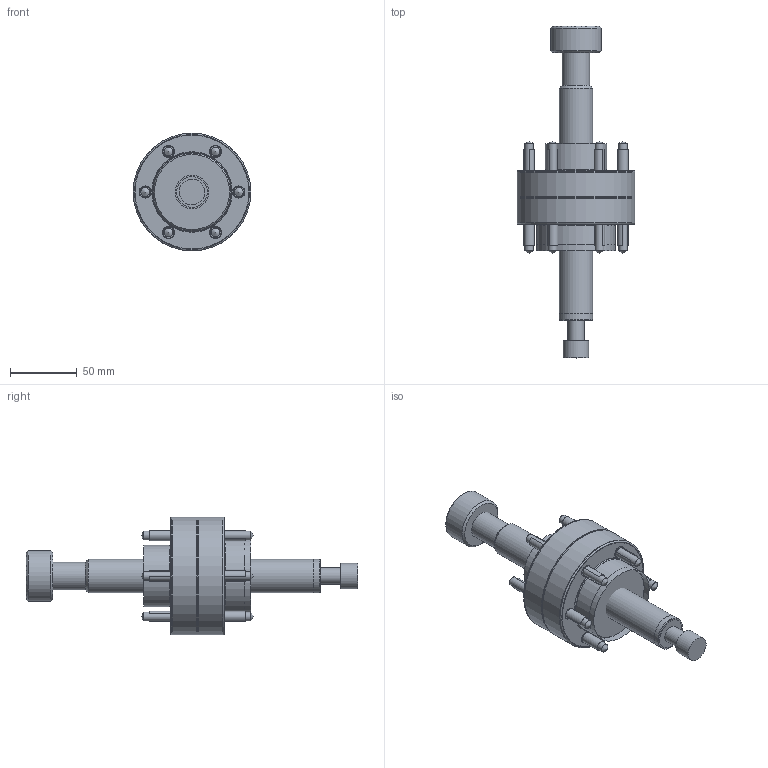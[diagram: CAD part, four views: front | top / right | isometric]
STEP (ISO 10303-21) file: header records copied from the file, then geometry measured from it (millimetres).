
FILE_DESCRIPTION (( 'STEP AP214' ), '1' );
FILE_NAME ('AS-25L SEMPLIFICATO.STEP', '2026-07-08T14:04:22', ( '' ), ( '' ), 'SwSTEP 2.0', 'SolidWorks 2025', '' );
FILE_SCHEMA (( 'AUTOMOTIVE_DESIGN' ));
Length unit declared in the file: millimetre
Products named in the file (9): AS-25 TESTA STELO_SEMPLIFICATO; ISO 4762 M12 x 30 - 30N_ISO 4762 M12 x 30 - 30N; AS-25 SEDE FLANGIA SEMPLIFICATO; AS-25L SEMPLIFICATO; AS-25 CORPO_SEMPLIFICATO; AS-25 SEDE STELO; AS-25 STELO_SEMPLIFICATO_AS-25 STELO L200; AS-25 FLANGIA_SEMPLIFICATO; AS-25 SEDE CORPO SEMPLIFICATO
Assembly tree (8 placements, depth 2):
  AS-25L SEMPLIFICATO
    AS-25 CORPO_SEMPLIFICATO
    AS-25 FLANGIA_SEMPLIFICATO
    AS-25 STELO_SEMPLIFICATO_AS-25 STELO L200
    AS-25 TESTA STELO_SEMPLIFICATO
    ISO 4762 M12 x 30 - 30N_ISO 4762 M12 x 30 - 30N
    AS-25 SEDE CORPO SEMPLIFICATO
    AS-25 SEDE FLANGIA SEMPLIFICATO
    AS-25 SEDE STELO
Bounding box: 88 x 248 x 88 mm (x, y, z)
Volume: 398354.5 mm3; surface area: 110032 mm2
Topology: 6 solids, 32 shells, 201 faces, 463 edges, 310 vertices
Faces by surface type: cylinder 75, plane 61, cone 56, torus 9
Full cylindrical faces by diameter (mm): 6.5 x12, 8.4 x6, 8.5 x6, 10.2 x1, 12 x1, 12.5 x2, 13.1 x6, 13.2 x6, 18 x1, 18.5 x1, 19 x1, 20.5 x2, 25 x1, 25.1 x1, 38 x1, 43.7 x1, 44.2 x1, 46 x1, 48.2 x1, 48.9 x1, 58 x1, 58.5 x1, 88 x4
Entity records: 5316 total; most frequent: DIRECTION 930, CARTESIAN_POINT 769, ORIENTED_EDGE 520, AXIS2_PLACEMENT_3D 425, EDGE_LOOP 366, EDGE_CURVE 292, FACE_OUTER_BOUND 269, VERTEX_POINT 264
